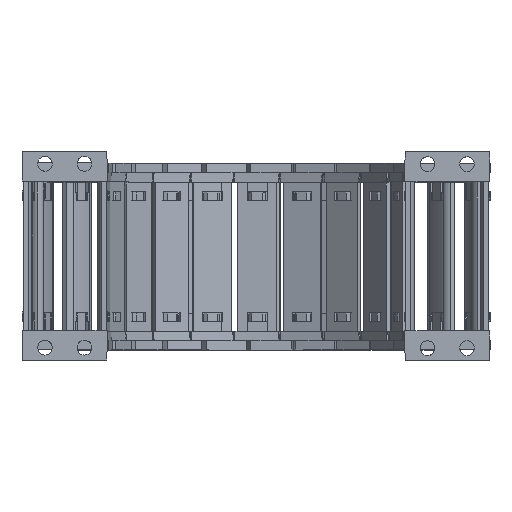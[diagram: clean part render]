
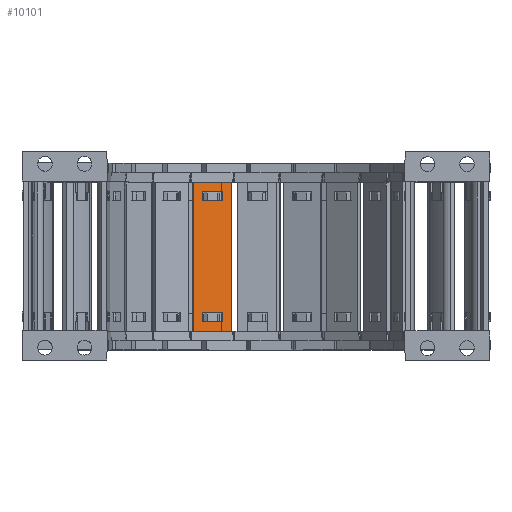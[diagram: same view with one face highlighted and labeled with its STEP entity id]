
A CAD part, top view. The second image highlights one B-rep face of the part: STEP entity #10101.
In plain terms, the highlighted planar face has unit normal (0.259, 0, 0.966).
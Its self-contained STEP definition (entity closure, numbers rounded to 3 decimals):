
#4663=FACE_BOUND('',#23383,.T.);
#4664=FACE_BOUND('',#23384,.T.);
#4665=FACE_BOUND('',#23385,.T.);
#5651=PLANE('',#121248);
#10101=ADVANCED_FACE('',(#4663,#4664,#4665),#5651,.F.);
#23383=EDGE_LOOP('',(#38223,#38224,#38225,#38226));
#23384=EDGE_LOOP('',(#38227,#38228,#38229,#38230));
#23385=EDGE_LOOP('',(#38231,#38232,#38233,#38234));
#38223=ORIENTED_EDGE('',*,*,#81626,.F.);
#38224=ORIENTED_EDGE('',*,*,#81597,.F.);
#38225=ORIENTED_EDGE('',*,*,#81631,.F.);
#38226=ORIENTED_EDGE('',*,*,#81608,.F.);
#38227=ORIENTED_EDGE('',*,*,#81643,.F.);
#38228=ORIENTED_EDGE('',*,*,#81636,.F.);
#38229=ORIENTED_EDGE('',*,*,#81675,.F.);
#38230=ORIENTED_EDGE('',*,*,#81650,.T.);
#38231=ORIENTED_EDGE('',*,*,#81673,.T.);
#38232=ORIENTED_EDGE('',*,*,#81676,.F.);
#38233=ORIENTED_EDGE('',*,*,#81677,.F.);
#38234=ORIENTED_EDGE('',*,*,#81678,.F.);
#69013=VERTEX_POINT('',#171403);
#69014=VERTEX_POINT('',#171405);
#69020=VERTEX_POINT('',#171420);
#69023=VERTEX_POINT('',#171426);
#69040=VERTEX_POINT('',#171483);
#69041=VERTEX_POINT('',#171484);
#69047=VERTEX_POINT('',#171498);
#69050=VERTEX_POINT('',#171506);
#69063=VERTEX_POINT('',#171553);
#69064=VERTEX_POINT('',#171555);
#69065=VERTEX_POINT('',#171560);
#69066=VERTEX_POINT('',#171562);
#81597=EDGE_CURVE('',#69013,#69014,#98089,.T.);
#81608=EDGE_CURVE('',#69023,#69020,#98100,.T.);
#81626=EDGE_CURVE('',#69014,#69023,#98115,.T.);
#81631=EDGE_CURVE('',#69020,#69013,#98120,.T.);
#81636=EDGE_CURVE('',#69040,#69041,#98125,.T.);
#81643=EDGE_CURVE('',#69041,#69047,#98132,.T.);
#81650=EDGE_CURVE('',#69050,#69047,#98139,.T.);
#81673=EDGE_CURVE('',#69064,#69063,#98153,.T.);
#81675=EDGE_CURVE('',#69050,#69040,#98155,.T.);
#81676=EDGE_CURVE('',#69065,#69063,#98156,.T.);
#81677=EDGE_CURVE('',#69066,#69065,#98157,.T.);
#81678=EDGE_CURVE('',#69064,#69066,#98158,.T.);
#98089=LINE('',#171404,#109721);
#98100=LINE('',#171427,#109732);
#98115=LINE('',#171462,#109747);
#98120=LINE('',#171471,#109752);
#98125=LINE('',#171482,#109757);
#98132=LINE('',#171497,#109764);
#98139=LINE('',#171510,#109771);
#98153=LINE('',#171554,#109785);
#98155=LINE('',#171558,#109787);
#98156=LINE('',#171559,#109788);
#98157=LINE('',#171561,#109789);
#98158=LINE('',#171563,#109790);
#109721=VECTOR('',#135874,1.);
#109732=VECTOR('',#135889,1.);
#109747=VECTOR('',#135924,1.);
#109752=VECTOR('',#135933,1.);
#109757=VECTOR('',#135942,1.);
#109764=VECTOR('',#135951,1.);
#109771=VECTOR('',#135960,1.);
#109785=VECTOR('',#136010,1.);
#109787=VECTOR('',#136014,1.);
#109788=VECTOR('',#136015,1.);
#109789=VECTOR('',#136016,1.);
#109790=VECTOR('',#136017,1.);
#121248=AXIS2_PLACEMENT_3D('',#171564,#136018,#136019);
#135874=DIRECTION('',(0.966,0.,-0.259));
#135889=DIRECTION('',(-0.966,0.,0.259));
#135924=DIRECTION('',(0.,1.,0.));
#135933=DIRECTION('',(0.,-1.,0.));
#135942=DIRECTION('',(-0.966,0.,0.259));
#135951=DIRECTION('',(0.,-1.,0.));
#135960=DIRECTION('',(-0.966,0.,0.259));
#136010=DIRECTION('',(0.,-1.,0.));
#136014=DIRECTION('',(0.,1.,0.));
#136015=DIRECTION('',(-0.966,0.,0.259));
#136016=DIRECTION('',(0.,-1.,0.));
#136017=DIRECTION('',(0.966,0.,-0.259));
#136018=DIRECTION('',(-0.259,0.,-0.966));
#136019=DIRECTION('',(-0.966,0.,0.259));
#171403=CARTESIAN_POINT('',(-99.114,-56.53,-76.948));
#171404=CARTESIAN_POINT('',(-99.114,-56.53,-76.948));
#171405=CARTESIAN_POINT('',(-91.242,-56.53,-79.058));
#171420=CARTESIAN_POINT('',(-99.114,-52.882,-76.948));
#171426=CARTESIAN_POINT('',(-91.242,-52.882,-79.058));
#171427=CARTESIAN_POINT('',(-91.242,-52.882,-79.058));
#171462=CARTESIAN_POINT('',(-91.242,-87.96,-79.058));
#171471=CARTESIAN_POINT('',(-99.114,-84.36,-76.948));
#171482=CARTESIAN_POINT('',(-91.242,-3.97,-79.058));
#171483=CARTESIAN_POINT('',(-91.242,-3.97,-79.058));
#171484=CARTESIAN_POINT('',(-99.114,-3.97,-76.948));
#171497=CARTESIAN_POINT('',(-99.114,-3.97,-76.948));
#171498=CARTESIAN_POINT('',(-99.114,-7.618,-76.948));
#171506=CARTESIAN_POINT('',(-91.242,-7.618,-79.058));
#171510=CARTESIAN_POINT('',(-91.242,-7.618,-79.058));
#171553=CARTESIAN_POINT('',(-102.809,-60.5,-75.959));
#171554=CARTESIAN_POINT('',(-102.809,0.,-75.959));
#171555=CARTESIAN_POINT('',(-102.809,0.,-75.959));
#171558=CARTESIAN_POINT('',(-91.242,-7.618,-79.058));
#171559=CARTESIAN_POINT('',(-87.547,-60.5,-80.048));
#171560=CARTESIAN_POINT('',(-87.547,-60.5,-80.048));
#171561=CARTESIAN_POINT('',(-87.547,0.,-80.048));
#171562=CARTESIAN_POINT('',(-87.547,0.,-80.048));
#171563=CARTESIAN_POINT('',(-102.809,0.,-75.959));
#171564=CARTESIAN_POINT('',(-85.46,31.74,-80.607));
